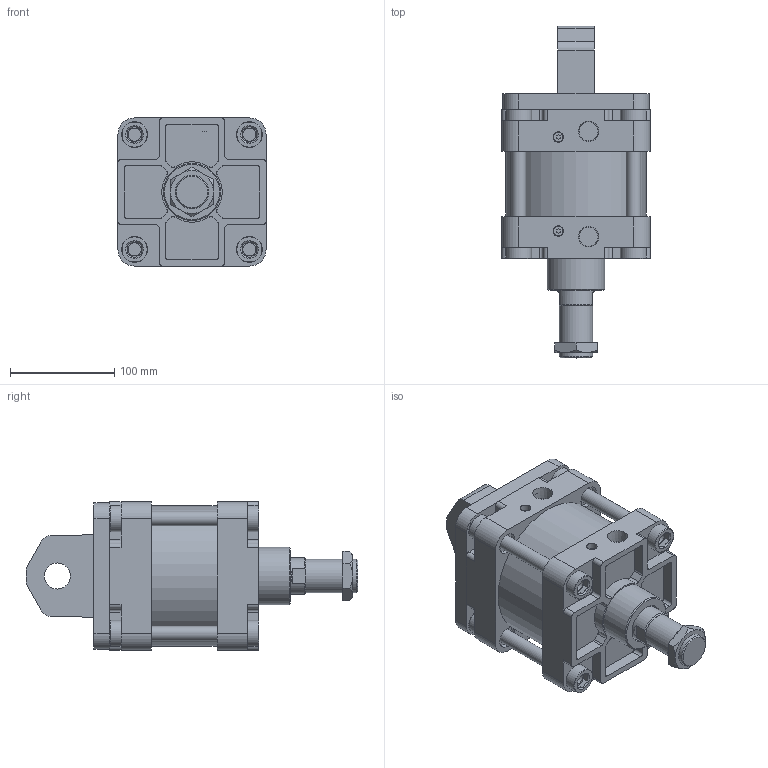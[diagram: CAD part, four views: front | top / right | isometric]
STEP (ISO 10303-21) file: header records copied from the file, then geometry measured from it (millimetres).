
FILE_DESCRIPTION(/* description */ ('Unknown'),/* implementation_level */ '2;1');
FILE_NAME(/* name */ 'WA125-0-CA',/* time_stamp */ '2026-07-17T16:58:54+08:00',/* author */ ('Unknown'),/* organization */ ('Unknown'),/* preprocessor_version */ 'ST-DEVELOPER v16.7',/* originating_system */ 'DEX',/* authorisation */ $);
FILE_SCHEMA (('CONFIG_CONTROL_DESIGN'));
Length unit declared in the file: millimetre
Products named in the file (8): WA125-0-CA; WA125_前1; WA125_岃搵; WA125_鋁6; WA125_CA; WA125_¤ß¶b¬¡æ´»å¡žçµ„; M32-2.0P-10_螺; WA125_T碪墮姊濈祫
Assembly tree (10 placements, depth 2):
  WA125-0-CA
    WA125_前1
    WA125_岃搵
    WA125_鋁6
    WA125_CA
    WA125_¤ß¶b¬¡æ´»å¡žçµ„
    M32-2.0P-10_螺
    WA125_T碪墮姊濈祫  x4
Bounding box: 142 x 318 x 142 mm (x, y, z)
Volume: 2772985.7 mm3; surface area: 394225.2 mm2
Topology: 10 solids, 10 shells, 424 faces, 1040 edges, 693 vertices
Faces by surface type: plane 237, cylinder 156, cone 23, torus 8
Full cylindrical faces by diameter (mm): 9 x2, 10 x2, 12.5 x8, 14 x4, 15 x4, 20 x8, 20.5 x8, 22.5 x4, 25 x9, 30 x1, 32 x1, 35 x1, 36 x1, 41 x1, 55 x1, 124.5 x1, 125 x3, 135 x1
Entity records: 11714 total; most frequent: CARTESIAN_POINT 1760, DIRECTION 1702, ORIENTED_EDGE 1516, EDGE_CURVE 758, AXIS2_PLACEMENT_3D 636, VERTEX_POINT 530, EDGE_LOOP 440, FACE_BOUND 440
